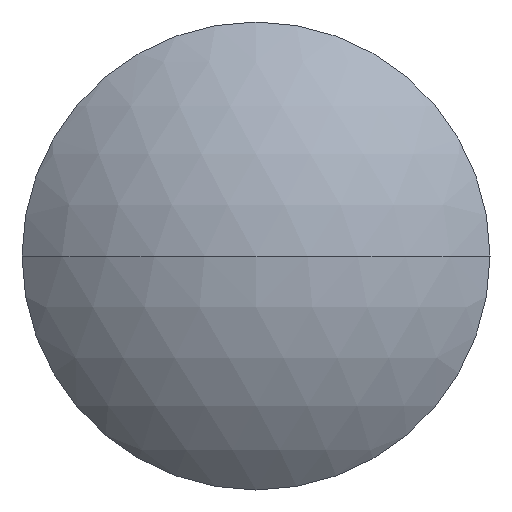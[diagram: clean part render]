
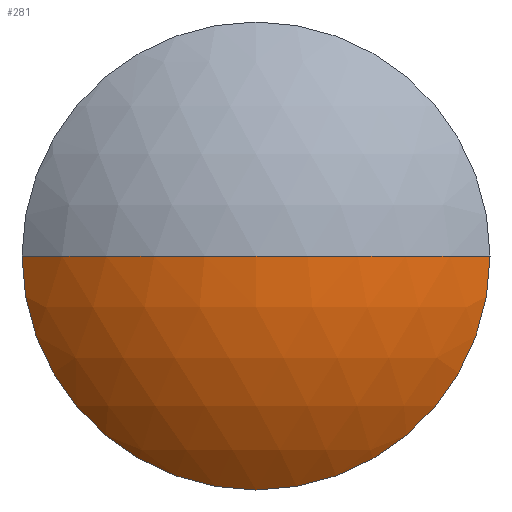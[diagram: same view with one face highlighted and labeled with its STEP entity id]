
A CAD part, left-side view. The second image highlights one B-rep face of the part: STEP entity #281.
In plain terms, the highlighted spherical face has radius 30.688 mm.
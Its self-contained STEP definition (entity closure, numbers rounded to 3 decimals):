
#4 = AXIS2_PLACEMENT_3D ( 'NONE', #112, #302, #137 ) ;
#6 = EDGE_CURVE ( 'NONE', #343, #334, #82, .T. ) ;
#14 = CARTESIAN_POINT ( 'NONE',  ( -2.5, 0., 0. ) ) ;
#35 = EDGE_CURVE ( 'NONE', #287, #261, #99, .T. ) ;
#43 = DIRECTION ( 'NONE',  ( 0., 0., -1. ) ) ;
#44 = EDGE_CURVE ( 'NONE', #334, #261, #298, .T. ) ;
#45 = AXIS2_PLACEMENT_3D ( 'NONE', #157, #116, #215 ) ;
#72 = ORIENTED_EDGE ( 'NONE', *, *, #6, .T. ) ;
#81 = DIRECTION ( 'NONE',  ( 0., 0., 1. ) ) ;
#82 = CIRCLE ( 'NONE', #278, 21.2 ) ;
#88 = AXIS2_PLACEMENT_3D ( 'NONE', #220, #43, #167 ) ;
#91 = DIRECTION ( 'NONE',  ( 0., 0., 1. ) ) ;
#99 = CIRCLE ( 'NONE', #114, 30.688 ) ;
#112 = CARTESIAN_POINT ( 'NONE',  ( 19.688, 0., 0. ) ) ;
#114 = AXIS2_PLACEMENT_3D ( 'NONE', #211, #81, #325 ) ;
#116 = DIRECTION ( 'NONE',  ( -1., 0., 0. ) ) ;
#118 = SPHERICAL_SURFACE ( 'NONE', #88, 30.688 ) ;
#120 = CARTESIAN_POINT ( 'NONE',  ( -2.5, -21.2, 0. ) ) ;
#137 = DIRECTION ( 'NONE',  ( 0., 1., 0. ) ) ;
#145 = CARTESIAN_POINT ( 'NONE',  ( -2.5, 0., -21.2 ) ) ;
#157 = CARTESIAN_POINT ( 'NONE',  ( -2.5, 0., 0. ) ) ;
#165 = EDGE_CURVE ( 'NONE', #287, #343, #255, .T. ) ;
#167 = DIRECTION ( 'NONE',  ( 0., 1., 0. ) ) ;
#203 = DIRECTION ( 'NONE',  ( -1., 0., 0. ) ) ;
#205 = ORIENTED_EDGE ( 'NONE', *, *, #35, .F. ) ;
#211 = CARTESIAN_POINT ( 'NONE',  ( 19.688, 0., 0. ) ) ;
#215 = DIRECTION ( 'NONE',  ( 0., 0., 1. ) ) ;
#220 = CARTESIAN_POINT ( 'NONE',  ( 19.688, 0., 0. ) ) ;
#221 = EDGE_LOOP ( 'NONE', ( #228, #72, #285, #205 ) ) ;
#228 = ORIENTED_EDGE ( 'NONE', *, *, #165, .T. ) ;
#250 = FACE_OUTER_BOUND ( 'NONE', #221, .T. ) ;
#255 = CIRCLE ( 'NONE', #45, 21.2 ) ;
#261 = VERTEX_POINT ( 'NONE', #305 ) ;
#278 = AXIS2_PLACEMENT_3D ( 'NONE', #14, #203, #91 ) ;
#281 = ADVANCED_FACE ( 'NONE', ( #250 ), #118, .T. ) ;
#282 = CARTESIAN_POINT ( 'NONE',  ( -2.5, 21.2, 0. ) ) ;
#285 = ORIENTED_EDGE ( 'NONE', *, *, #44, .T. ) ;
#287 = VERTEX_POINT ( 'NONE', #282 ) ;
#298 = CIRCLE ( 'NONE', #4, 30.688 ) ;
#302 = DIRECTION ( 'NONE',  ( 0., 0., -1. ) ) ;
#305 = CARTESIAN_POINT ( 'NONE',  ( -11., 0., 0. ) ) ;
#325 = DIRECTION ( 'NONE',  ( 1., 0., 0. ) ) ;
#334 = VERTEX_POINT ( 'NONE', #120 ) ;
#343 = VERTEX_POINT ( 'NONE', #145 ) ;
